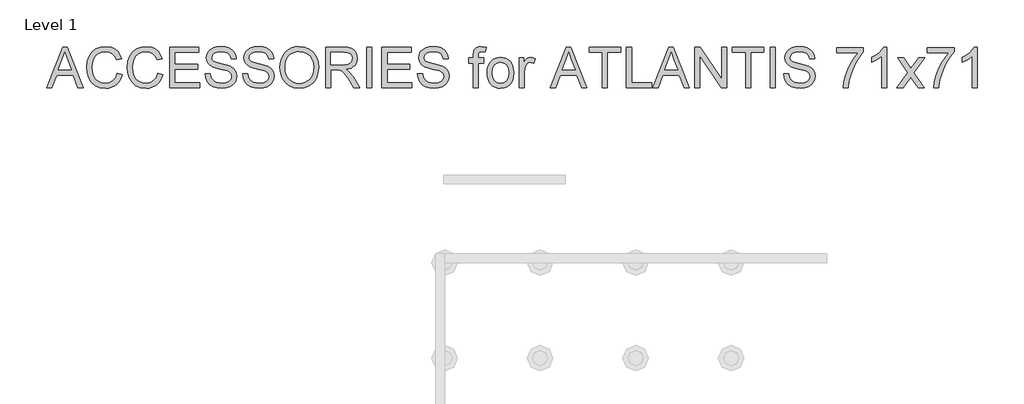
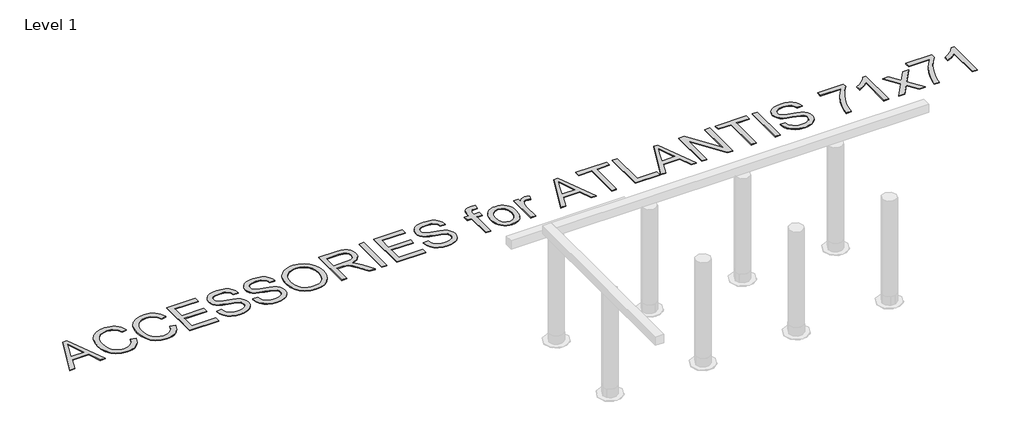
# One storey, part 6 of 6: 1 proxy.
"""IFC4 building model written with IfcOpenShell, lengths in millimetres."""

from ifc_helpers import new_model, si_unit, origin, origin_with_axes, place, context, project, spatial, polyline, outline, extrude, element, save

model = new_model("IFC4")

# Units and contexts
model_context = context("Model", 3, world=origin())
ifc_project = project(units=[si_unit("LENGTHUNIT", "METRE", prefix="MILLI")], contexts=[model_context])

# Site, building, storey
site = spatial("IfcSite", under=ifc_project)
building = spatial("IfcBuilding", under=site)
storey = spatial("IfcBuildingStorey", under=building, Name="Level 1", Elevation=0.0)

# Proxy
placement = place(None, origin())
element("IfcBuildingElementProxy", 1, Name="300mm Arial", ObjectType="300mm Arial", at=placement, inside=storey, context=model_context, shape_type="SweptSolid", body=[
    extrude(outline(polyline([(19298.3596666, 106.1819692), (19418.657079, 407.5508997), (19450.736389, 407.5508997), (19571.0338014, 106.1819692), (19531.2289695, 106.1819692), (19496.7216384, 200.35976), (19372.5982532, 200.35976), (19338.1644984, 106.1819692), (19298.3596666, 106.1819692)]), holes=[polyline([(19386.4306162, 238.0308763), (19482.9628517, 238.0308763), (19455.8131605, 312.1223101), (19434.696734, 369.8797834), (19415.9347522, 318.5970332), (19386.4306162, 238.0308763)])]), origin_with_axes(), (0.0, 0.0, 1.0), 5.0),
    extrude(outline(polyline([(19823.1801209, 213.3092062), (19860.8512372, 203.5971215), (19853.3970283, 180.1699362), (19843.4688129, 159.6996025), (19831.0665911, 142.1861202), (19816.190363, 127.6294895), (19799.1758207, 116.1860602), (19780.3586566, 108.0121821), (19759.7388708, 103.1078553), (19737.3164632, 101.4730797), (19693.6212792, 106.4210925), (19658.92081, 121.265131), (19632.3229418, 145.4901604), (19612.9355606, 178.5811459), (19601.0989574, 217.4846669), (19597.153423, 259.1473028), (19601.6139922, 303.0908071), (19614.9956998, 341.0378349), (19636.59957, 371.7835727), (19665.7266269, 394.1232068), (19700.2707463, 407.7256436), (19738.1258036, 412.2597892), (19779.4297546, 406.3920714), (19797.3984908, 399.0574241), (19813.5784008, 388.7889179), (19827.7027702, 375.8578658), (19839.5048844, 360.5355807), (19856.1423476, 322.7173116), (19818.4712313, 313.7409909), (19805.4114205, 341.2125789), (19787.5691437, 360.0573341), (19764.7236718, 370.9558382), (19736.6542756, 374.5886729), (19704.2990541, 370.5603651), (19677.71958, 358.4754415), (19657.5504496, 339.6030952), (19644.4262594, 315.2125189), (19637.2249694, 287.6397633), (19634.8245393, 259.2208792), (19637.6664278, 224.4192425), (19646.192093, 194.3264953), (19660.7234318, 170.0922688), (19681.5823409, 152.8661944), (19706.5891196, 142.5746956), (19733.5640668, 139.144196), (19765.0087804, 143.8162973), (19791.2111755, 157.8326013), (19810.9940298, 181.0459552), (19823.1801209, 213.3092062)])), origin_with_axes(), (0.0, 0.0, 1.0), 5.0),
    extrude(outline(polyline([(20124.5490513, 213.3092062), (20162.2201676, 203.5971215), (20154.7659587, 180.1699362), (20144.8377434, 159.6996025), (20132.4355216, 142.1861202), (20117.5592934, 127.6294895), (20100.5447511, 116.1860602), (20081.7275871, 108.0121821), (20061.1078013, 103.1078553), (20038.6853936, 101.4730797), (19994.9902097, 106.4210925), (19960.2897405, 121.265131), (19933.6918722, 145.4901604), (19914.3044911, 178.5811459), (19902.4678879, 217.4846669), (19898.5223535, 259.1473028), (19902.9829227, 303.0908071), (19916.3646303, 341.0378349), (19937.9685004, 371.7835727), (19967.0955574, 394.1232068), (20001.6396767, 407.7256436), (20039.494734, 412.2597892), (20080.798685, 406.3920714), (20098.7674212, 399.0574241), (20114.9473312, 388.7889179), (20129.0717006, 375.8578658), (20140.8738149, 360.5355807), (20157.5112781, 322.7173116), (20119.8401618, 313.7409909), (20106.780351, 341.2125789), (20088.9380742, 360.0573341), (20066.0926023, 370.9558382), (20038.0232061, 374.5886729), (20005.6679846, 370.5603651), (19979.0885104, 358.4754415), (19958.91938, 339.6030952), (19945.7951899, 315.2125189), (19938.5938998, 287.6397633), (19936.1934698, 259.2208792), (19939.0353582, 224.4192425), (19947.5610234, 194.3264953), (19962.0923623, 170.0922688), (19982.9512714, 152.8661944), (20007.95805, 142.5746956), (20034.9329973, 139.144196), (20066.3777108, 143.8162973), (20092.5801059, 157.8326013), (20112.3629602, 181.0459552), (20124.5490513, 213.3092062)])), origin_with_axes(), (0.0, 0.0, 1.0), 5.0),
    extrude(outline(polyline([(20214.0179526, 106.1819692), (20214.0179526, 407.5508997), (20430.6268713, 407.5508997), (20430.6268713, 369.8797834), (20251.6890689, 369.8797834), (20251.6890689, 280.4108821), (20421.2090922, 280.4108821), (20421.2090922, 242.7397658), (20251.6890689, 242.7397658), (20251.6890689, 143.8530855), (20435.3357608, 143.8530855), (20435.3357608, 106.1819692), (20214.0179526, 106.1819692)])), origin_with_axes(), (0.0, 0.0, 1.0), 5.0),
    extrude(outline(polyline([(20477.7157667, 209.7775391), (20515.386883, 209.7775391), (20519.7094964, 188.8726447), (20527.5269888, 172.0696346), (20539.722277, 158.7339122), (20557.1782777, 148.2308813), (20578.5154334, 141.4158673), (20602.3541867, 139.144196), (20623.3418545, 140.8640443), (20641.7175601, 146.0235893), (20656.6075839, 154.1905696), (20667.138206, 164.9327239), (20673.401397, 177.2659677), (20675.4891273, 190.2062169), (20673.9256288, 202.8153723), (20669.2351334, 213.7138764), (20659.7069897, 223.0120938), (20643.6305465, 230.8203892), (20588.779341, 245.2045752), (20552.7728908, 254.7235218), (20529.7342808, 263.782616), (20510.9814961, 276.4561507), (20497.691759, 291.815224), (20489.7730991, 309.5287421), (20487.1335458, 329.2656111), (20490.3984985, 351.3293338), (20500.1933566, 371.9031343), (20516.2606027, 389.3407409), (20538.3427195, 401.9958815), (20564.8486173, 409.6938123), (20594.1872064, 412.2597892), (20625.9722107, 409.5742506), (20653.7840896, 401.517635), (20676.6295615, 388.255489), (20693.5153451, 369.9533598), (20704.202317, 347.7516814), (20708.4513541, 322.790888), (20670.7802378, 322.790888), (20663.8640563, 345.2684779), (20649.443082, 361.4920739), (20626.9103098, 371.3145231), (20595.6587343, 374.5886729), (20563.6713949, 371.3513113), (20541.7272339, 361.6392267), (20529.035305, 347.3470112), (20524.8046621, 330.3692571), (20527.8029003, 315.8931006), (20536.7976151, 304.2496354), (20558.0611944, 293.838575), (20598.3074847, 283.2067853), (20639.841362, 273.1084245), (20664.9677022, 264.2976508), (20686.4428137, 250.6308346), (20701.424808, 233.7634452), (20710.2263847, 213.8794233), (20713.1602436, 191.1627101), (20709.7849263, 167.9401592), (20699.6589744, 146.0971657), (20683.1962551, 127.2983957), (20660.8106357, 113.2085153), (20633.8908707, 104.4069386), (20603.8257146, 101.4730797), (20566.9179535, 104.6368648), (20536.5400977, 114.1282203), (20512.3426595, 129.9839343), (20493.9761509, 152.240795), (20482.1855329, 179.3536981), (20477.7157667, 209.7775391)])), origin_with_axes(), (0.0, 0.0, 1.0), 5.0),
    extrude(outline(polyline([(20755.5402495, 209.7775391), (20793.2113658, 209.7775391), (20797.5339792, 188.8726447), (20805.3514716, 172.0696346), (20817.5467597, 158.7339122), (20835.0027604, 148.2308813), (20856.3399161, 141.4158673), (20880.1786694, 139.144196), (20901.1663372, 140.8640443), (20919.5420429, 146.0235893), (20934.4320667, 154.1905696), (20944.9626888, 164.9327239), (20951.2258797, 177.2659677), (20953.3136101, 190.2062169), (20951.7501116, 202.8153723), (20947.0596161, 213.7138764), (20937.5314725, 223.0120938), (20921.4550293, 230.8203892), (20866.6038238, 245.2045752), (20830.5973735, 254.7235218), (20807.5587636, 263.782616), (20788.8059789, 276.4561507), (20775.5162418, 291.815224), (20767.5975818, 309.5287421), (20764.9580285, 329.2656111), (20768.2229812, 351.3293338), (20778.0178394, 371.9031343), (20794.0850855, 389.3407409), (20816.1672023, 401.9958815), (20842.6731, 409.6938123), (20872.0116891, 412.2597892), (20903.7966935, 409.5742506), (20931.6085723, 401.517635), (20954.4540442, 388.255489), (20971.3398278, 369.9533598), (20982.0267998, 347.7516814), (20986.2758368, 322.790888), (20948.6047205, 322.790888), (20941.688539, 345.2684779), (20927.2675648, 361.4920739), (20904.7347926, 371.3145231), (20873.4832171, 374.5886729), (20841.4958776, 371.3513113), (20819.5517166, 361.6392267), (20806.8597878, 347.3470112), (20802.6291448, 330.3692571), (20805.6273831, 315.8931006), (20814.6220979, 304.2496354), (20835.8856772, 293.838575), (20876.1319675, 283.2067853), (20917.6658447, 273.1084245), (20942.792185, 264.2976508), (20964.2672965, 250.6308346), (20979.2492907, 233.7634452), (20988.0508675, 213.8794233), (20990.9847264, 191.1627101), (20987.6094091, 167.9401592), (20977.4834571, 146.0971657), (20961.0207379, 127.2983957), (20938.6351185, 113.2085153), (20911.7153535, 104.4069386), (20881.6501974, 101.4730797), (20844.7424362, 104.6368648), (20814.3645805, 114.1282203), (20790.1671422, 129.9839343), (20771.8006336, 152.240795), (20760.0100157, 179.3536981), (20755.5402495, 209.7775391)])), origin_with_axes(), (0.0, 0.0, 1.0), 5.0),
    extrude(outline(polyline([(21033.3647322, 252.8933089), (21035.8755268, 288.2421701), (21043.4079107, 319.5351323), (21055.9618838, 346.7721955), (21073.5374461, 369.9533598), (21095.0815354, 388.4624226), (21119.5410896, 401.6831818), (21146.9161085, 409.6156374), (21177.2065923, 412.2597892), (21216.7355127, 407.2933823), (21252.1809429, 392.3941615), (21281.6115026, 368.6105905), (21303.0958111, 336.991133), (21316.2291983, 299.0624993), (21320.606994, 256.3513997), (21315.9992721, 213.0700829), (21302.1761061, 174.6080203), (21279.9008513, 142.9333805), (21249.9368628, 120.0143322), (21214.7949352, 106.1083928), (21176.9858631, 101.4730797), (21136.8499375, 106.5958365), (21101.2021721, 121.9641068), (21071.8451889, 146.1891362), (21050.5816096, 177.8821701), (21037.6689516, 214.3484729), (21033.3647322, 252.8933089)]), holes=[polyline([(21071.0358485, 252.5254269), (21072.9189445, 227.550838), (21078.5682324, 205.3813492), (21087.9837122, 186.0169607), (21101.1653839, 169.4576724), (21117.1889441, 156.1955265), (21135.1300891, 146.7225651), (21154.9888191, 141.0387883), (21176.7651339, 139.144196), (21198.9139293, 141.0571824), (21219.007184, 146.7961415), (21237.0448981, 156.3610734), (21253.0270715, 169.751978), (21266.1121742, 186.6607542), (21275.4586762, 206.7793008), (21281.0665773, 230.1076178), (21282.9358777, 256.6457053), (21279.7353044, 289.9942081), (21270.1335843, 318.8177624), (21254.3790379, 342.3898013), (21232.7199854, 359.9837577), (21206.5911667, 370.9374441), (21177.4273215, 374.5886729), (21156.407464, 372.8297371), (21136.9051198, 367.5529297), (21118.9202887, 358.7582508), (21102.4529709, 346.4457003), (21088.7079799, 330.0220685), (21078.8901291, 308.8941456), (21072.9994187, 283.0619318), (21071.0358485, 252.5254269)])]), origin_with_axes(), (0.0, 0.0, 1.0), 5.0),
    extrude(outline(polyline([(21372.404779, 106.1819692), (21372.404779, 407.5508997), (21502.2671233, 407.5508997), (21537.1699276, 405.5183516), (21562.5629823, 399.4207076), (21581.1226289, 388.1635185), (21595.525209, 370.6523356), (21604.7682442, 348.9381008), (21607.8492559, 325.0717564), (21602.7448932, 295.3836793), (21587.4318051, 270.7723739), (21575.832026, 260.742991), (21561.4501392, 252.727762), (21524.340043, 242.7397658), (21545.7507751, 226.6265344), (21576.2849807, 187.8517722), (21626.5376612, 106.1819692), (21582.7597038, 106.1819692), (21543.5434831, 168.648332), (21515.2165695, 209.9982683), (21495.3141536, 229.5328022), (21477.3983004, 236.7065011), (21455.5461099, 238.0308763), (21410.0758953, 238.0308763), (21410.0758953, 106.1819692), (21372.404779, 106.1819692)]), holes=[polyline([(21410.0758953, 275.7019926), (21494.3944486, 275.7019926), (21518.6102809, 277.0355648), (21537.3998538, 281.0362815), (21551.5449165, 287.9708571), (21561.8272183, 298.1060061), (21568.0904092, 310.3656736), (21570.1781396, 323.6738048), (21566.195817, 342.0495104), (21554.2488492, 356.8567607), (21533.6934427, 366.6240277), (21503.885804, 369.8797834), (21410.0758953, 369.8797834), (21410.0758953, 275.7019926)])]), origin_with_axes(), (0.0, 0.0, 1.0), 5.0),
    extrude(outline(polyline([(21678.482599, 106.1819692), (21678.482599, 407.5508997), (21716.1537153, 407.5508997), (21716.1537153, 106.1819692), (21678.482599, 106.1819692)])), origin_with_axes(), (0.0, 0.0, 1.0), 5.0),
    extrude(outline(polyline([(21791.4959479, 106.1819692), (21791.4959479, 407.5508997), (22008.1048666, 407.5508997), (22008.1048666, 369.8797834), (21829.1670642, 369.8797834), (21829.1670642, 280.4108821), (21998.6870876, 280.4108821), (21998.6870876, 242.7397658), (21829.1670642, 242.7397658), (21829.1670642, 143.8530855), (22012.8137562, 143.8530855), (22012.8137562, 106.1819692), (21791.4959479, 106.1819692)])), origin_with_axes(), (0.0, 0.0, 1.0), 5.0),
    extrude(outline(polyline([(22055.193762, 209.7775391), (22092.8648783, 209.7775391), (22097.1874918, 188.8726447), (22105.0049842, 172.0696346), (22117.2002723, 158.7339122), (22134.656273, 148.2308813), (22155.9934287, 141.4158673), (22179.832182, 139.144196), (22200.8198498, 140.8640443), (22219.1955555, 146.0235893), (22234.0855792, 154.1905696), (22244.6162013, 164.9327239), (22250.8793923, 177.2659677), (22252.9671226, 190.2062169), (22251.4036241, 202.8153723), (22246.7131287, 213.7138764), (22237.184985, 223.0120938), (22221.1085418, 230.8203892), (22166.2573364, 245.2045752), (22130.2508861, 254.7235218), (22107.2122761, 263.782616), (22088.4594914, 276.4561507), (22075.1697543, 291.815224), (22067.2510944, 309.5287421), (22064.6115411, 329.2656111), (22067.8764938, 351.3293338), (22077.6713519, 371.9031343), (22093.7385981, 389.3407409), (22115.8207148, 401.9958815), (22142.3266126, 409.6938123), (22171.6652017, 412.2597892), (22203.4502061, 409.5742506), (22231.2620849, 401.517635), (22254.1075568, 388.255489), (22270.9933404, 369.9533598), (22281.6803123, 347.7516814), (22285.9293494, 322.790888), (22248.2582331, 322.790888), (22241.3420516, 345.2684779), (22226.9210774, 361.4920739), (22204.3883052, 371.3145231), (22173.1367297, 374.5886729), (22141.1493902, 371.3513113), (22119.2052292, 361.6392267), (22106.5133003, 347.3470112), (22102.2826574, 330.3692571), (22105.2808957, 315.8931006), (22114.2756104, 304.2496354), (22135.5391898, 293.838575), (22175.78548, 283.2067853), (22217.3193573, 273.1084245), (22242.4456976, 264.2976508), (22263.920809, 250.6308346), (22278.9028033, 233.7634452), (22287.70438, 213.8794233), (22290.6382389, 191.1627101), (22287.2629216, 167.9401592), (22277.1369697, 146.0971657), (22260.6742504, 127.2983957), (22238.288631, 113.2085153), (22211.368866, 104.4069386), (22181.30371, 101.4730797), (22144.3959488, 104.6368648), (22114.018093, 114.1282203), (22089.8206548, 129.9839343), (22071.4541462, 152.240795), (22059.6635283, 179.3536981), (22055.193762, 209.7775391)])), origin_with_axes(), (0.0, 0.0, 1.0), 5.0),
    extrude(outline(polyline([(22469.5760414, 106.1819692), (22469.5760414, 289.8286612), (22436.6138146, 289.8286612), (22436.6138146, 327.4997775), (22469.5760414, 327.4997775), (22469.5760414, 349.7934264), (22473.5491669, 381.2105488), (22481.127536, 393.7369308), (22492.8261835, 403.6513505), (22509.1969323, 410.1076795), (22530.7916054, 412.2597892), (22565.1517837, 408.1395109), (22559.6335538, 372.8228393), (22537.9285161, 374.5886729), (22523.6087094, 373.0251744), (22514.2001274, 368.334679), (22508.9854001, 359.3767524), (22507.2471577, 345.0109605), (22507.2471577, 327.4997775), (22549.6271635, 327.4997775), (22549.6271635, 289.8286612), (22507.2471577, 289.8286612), (22507.2471577, 106.1819692), (22469.5760414, 106.1819692)])), origin_with_axes(), (0.0, 0.0, 1.0), 5.0),
    extrude(outline(polyline([(22573.1716112, 216.8408734), (22575.2087578, 245.5034793), (22581.3201974, 270.2021568), (22591.5059302, 290.9369057), (22605.765956, 307.7077262), (22620.1225509, 318.4268878), (22635.9690678, 326.0834318), (22653.3055068, 330.6773583), (22672.1318679, 332.2086671), (22692.9149014, 330.3439652), (22711.7067736, 324.7498596), (22728.5074844, 315.4263503), (22743.317034, 302.3734373), (22755.4042568, 286.0325789), (22764.0379874, 266.8452336), (22769.2182257, 244.8114013), (22770.9449718, 219.9310821), (22767.8915513, 181.8736897), (22758.7312896, 152.9029826), (22743.7309012, 131.2071419), (22723.1571007, 114.9743489), (22698.7205391, 104.848397), (22672.1318679, 101.4730797), (22651.0453318, 103.3308838), (22632.0787157, 108.904296), (22615.2320196, 118.1933164), (22600.5052435, 131.1979449), (22588.5467794, 147.6974524), (22580.0050193, 167.4711096), (22574.8799632, 190.5189166), (22573.1716112, 216.8408734)]), holes=[polyline([(22610.8427275, 216.9144498), (22615.2021292, 182.8209859), (22628.2803341, 158.5315771), (22647.9620208, 143.9910413), (22672.1318679, 139.144196), (22696.1913504, 144.0186324), (22715.8362489, 158.6419417), (22728.9144539, 183.2532472), (22733.2738555, 218.0916722), (22728.8868627, 251.1918547), (22715.7258844, 275.1501696), (22696.0533947, 289.6907055), (22672.1318679, 294.5375508), (22647.9620208, 289.7090996), (22628.2803341, 275.223746), (22615.2021292, 250.9895196), (22610.8427275, 216.9144498)])]), origin_with_axes(), (0.0, 0.0, 1.0), 5.0),
    extrude(outline(polyline([(22813.3249777, 106.1819692), (22813.3249777, 327.4997775), (22846.2872044, 327.4997775), (22846.2872044, 294.75828), (22858.4640985, 313.7409909), (22869.6844993, 324.9246036), (22880.9416884, 330.3876512), (22893.228947, 332.2086671), (22911.9909288, 329.3023993), (22931.0472161, 320.583596), (22918.4656519, 286.8120289), (22905.2219001, 292.6061703), (22891.9781482, 294.5375508), (22880.7301562, 292.6797467), (22870.6777807, 287.1063345), (22862.5567857, 278.2403784), (22857.1029351, 266.5049427), (22852.5228043, 245.4620926), (22850.996094, 222.5062561), (22850.996094, 106.1819692), (22813.3249777, 106.1819692)])), origin_with_axes(), (0.0, 0.0, 1.0), 5.0),
    extrude(outline(polyline([(23041.9268495, 106.1819692), (23162.2242619, 407.5508997), (23194.3035719, 407.5508997), (23314.6009843, 106.1819692), (23274.7961524, 106.1819692), (23240.2888213, 200.35976), (23116.1654361, 200.35976), (23081.7316814, 106.1819692), (23041.9268495, 106.1819692)]), holes=[polyline([(23129.9977991, 238.0308763), (23226.5300347, 238.0308763), (23199.3803434, 312.1223101), (23178.2639169, 369.8797834), (23159.5019351, 318.5970332), (23129.9977991, 238.0308763)])]), origin_with_axes(), (0.0, 0.0, 1.0), 5.0),
    extrude(outline(polyline([(23430.1895072, 106.1819692), (23430.1895072, 369.8797834), (23331.3028269, 369.8797834), (23331.3028269, 407.5508997), (23566.7473038, 407.5508997), (23566.7473038, 369.8797834), (23467.8606235, 369.8797834), (23467.8606235, 106.1819692), (23430.1895072, 106.1819692)])), origin_with_axes(), (0.0, 0.0, 1.0), 5.0),
    extrude(outline(polyline([(23609.1273096, 106.1819692), (23609.1273096, 407.5508997), (23646.7984259, 407.5508997), (23646.7984259, 143.8530855), (23797.4828912, 143.8530855), (23797.4828912, 106.1819692), (23609.1273096, 106.1819692)])), origin_with_axes(), (0.0, 0.0, 1.0), 5.0),
    extrude(outline(polyline([(23804.7669547, 106.1819692), (23925.0643671, 407.5508997), (23957.1436771, 407.5508997), (24077.4410895, 106.1819692), (24037.6362576, 106.1819692), (24003.1289265, 200.35976), (23879.0055413, 200.35976), (23844.5717866, 106.1819692), (23804.7669547, 106.1819692)]), holes=[polyline([(23892.8379043, 238.0308763), (23989.3701399, 238.0308763), (23962.2204486, 312.1223101), (23941.1040221, 369.8797834), (23922.3420403, 318.5970332), (23892.8379043, 238.0308763)])]), origin_with_axes(), (0.0, 0.0, 1.0), 5.0),
    extrude(outline(polyline([(24117.6873798, 106.1819692), (24117.6873798, 407.5508997), (24158.0072464, 407.5508997), (24315.4607404, 168.7954848), (24315.4607404, 407.5508997), (24353.1318567, 407.5508997), (24353.1318567, 106.1819692), (24312.81199, 106.1819692), (24155.3584961, 345.0109605), (24155.3584961, 106.1819692), (24117.6873798, 106.1819692)])), origin_with_axes(), (0.0, 0.0, 1.0), 5.0),
    extrude(outline(polyline([(24494.3985428, 106.1819692), (24494.3985428, 369.8797834), (24395.5118625, 369.8797834), (24395.5118625, 407.5508997), (24630.9563394, 407.5508997), (24630.9563394, 369.8797834), (24532.0696591, 369.8797834), (24532.0696591, 106.1819692), (24494.3985428, 106.1819692)])), origin_with_axes(), (0.0, 0.0, 1.0), 5.0),
    extrude(outline(polyline([(24678.0452348, 106.1819692), (24678.0452348, 407.5508997), (24715.7163511, 407.5508997), (24715.7163511, 106.1819692), (24678.0452348, 106.1819692)])), origin_with_axes(), (0.0, 0.0, 1.0), 5.0),
    extrude(outline(polyline([(24776.9319151, 209.7775391), (24814.6030314, 209.7775391), (24818.9256449, 188.8726447), (24826.7431373, 172.0696346), (24838.9384254, 158.7339122), (24856.3944261, 148.2308813), (24877.7315818, 141.4158673), (24901.5703351, 139.144196), (24922.5580029, 140.8640443), (24940.9337086, 146.0235893), (24955.8237323, 154.1905696), (24966.3543544, 164.9327239), (24972.6175454, 177.2659677), (24974.7052757, 190.2062169), (24973.1417773, 202.8153723), (24968.4512818, 213.7138764), (24958.9231381, 223.0120938), (24942.846695, 230.8203892), (24887.9954895, 245.2045752), (24851.9890392, 254.7235218), (24828.9504292, 263.782616), (24810.1976445, 276.4561507), (24796.9079075, 291.815224), (24788.9892475, 309.5287421), (24786.3496942, 329.2656111), (24789.6146469, 351.3293338), (24799.409505, 371.9031343), (24815.4767512, 389.3407409), (24837.5588679, 401.9958815), (24864.0647657, 409.6938123), (24893.4033548, 412.2597892), (24925.1883592, 409.5742506), (24953.000238, 401.517635), (24975.8457099, 388.255489), (24992.7314935, 369.9533598), (25003.4184655, 347.7516814), (25007.6675025, 322.790888), (24969.9963862, 322.790888), (24963.0802047, 345.2684779), (24948.6592305, 361.4920739), (24926.1264583, 371.3145231), (24894.8748828, 374.5886729), (24862.8875433, 371.3513113), (24840.9433823, 361.6392267), (24828.2514535, 347.3470112), (24824.0208105, 330.3692571), (24827.0190488, 315.8931006), (24836.0137636, 304.2496354), (24857.2773429, 293.838575), (24897.5236331, 283.2067853), (24939.0575104, 273.1084245), (24964.1838507, 264.2976508), (24985.6589621, 250.6308346), (25000.6409564, 233.7634452), (25009.4425331, 213.8794233), (25012.376392, 191.1627101), (25009.0010747, 167.9401592), (24998.8751228, 146.0971657), (24982.4124035, 127.2983957), (24960.0267841, 113.2085153), (24933.1070191, 104.4069386), (24903.0418631, 101.4730797), (24866.1341019, 104.6368648), (24835.7562462, 114.1282203), (24811.5588079, 129.9839343), (24793.1922993, 152.240795), (24781.4016814, 179.3536981), (24776.9319151, 209.7775391)])), origin_with_axes(), (0.0, 0.0, 1.0), 5.0),
    extrude(outline(polyline([(25172.4786363, 365.1708938), (25172.4786363, 402.8420101), (25370.2519969, 402.8420101), (25370.2519969, 372.3813809), (25342.0630391, 336.7060245), (25314.1499927, 291.3369774), (25289.5294902, 240.4129122), (25271.2181638, 188.0725014), (25262.2418432, 148.911463), (25257.238648, 106.1819692), (25219.5675317, 106.1819692), (25223.6418248, 145.0119138), (25234.5403289, 191.1627101), (25251.9687384, 240.0818184), (25275.6327478, 287.2166991), (25303.2606856, 329.8266311), (25332.5808806, 365.1708938), (25172.4786363, 365.1708938)])), origin_with_axes(), (0.0, 0.0, 1.0), 5.0),
    extrude(outline(polyline([(25544.4809099, 106.1819692), (25506.8097936, 106.1819692), (25506.8097936, 341.0378349), (25471.12524, 315.6171891), (25431.4675609, 296.5976899), (25431.4675609, 332.2086671), (25461.0544704, 348.3035043), (25486.6866484, 367.4517622), (25506.892567, 387.8140306), (25520.2006982, 407.5508997), (25544.4809099, 407.5508997), (25544.4809099, 106.1819692)])), origin_with_axes(), (0.0, 0.0, 1.0), 5.0),
    extrude(outline(polyline([(25619.8231425, 106.1819692), (25700.315723, 217.4294846), (25624.532032, 327.4997775), (25669.8550938, 327.4997775), (25706.4225641, 274.5247702), (25723.4922887, 249.5087945), (25738.2811449, 269.9630335), (25779.9253868, 327.4997775), (25825.2484486, 327.4997775), (25745.6387848, 217.4294846), (25822.3053926, 106.1819692), (25776.9823308, 106.1819692), (25730.8499286, 173.0629159), (25722.3886427, 185.2765982), (25665.1462043, 106.1819692), (25619.8231425, 106.1819692)])), origin_with_axes(), (0.0, 0.0, 1.0), 5.0),
    extrude(outline(polyline([(25845.8498403, 365.1708938), (25845.8498403, 402.8420101), (26043.6232009, 402.8420101), (26043.6232009, 372.3813809), (26015.434243, 336.7060245), (25987.5211967, 291.3369774), (25962.9006941, 240.4129122), (25944.5893678, 188.0725014), (25935.6130471, 148.911463), (25930.609852, 106.1819692), (25892.9387357, 106.1819692), (25897.0130288, 145.0119138), (25907.9115329, 191.1627101), (25925.3399424, 240.0818184), (25949.0039518, 287.2166991), (25976.6318896, 329.8266311), (26005.9520846, 365.1708938), (25845.8498403, 365.1708938)])), origin_with_axes(), (0.0, 0.0, 1.0), 5.0),
    extrude(outline(polyline([(26217.8521138, 106.1819692), (26180.1809975, 106.1819692), (26180.1809975, 341.0378349), (26144.496444, 315.6171891), (26104.8387649, 296.5976899), (26104.8387649, 332.2086671), (26134.4256744, 348.3035043), (26160.0578524, 367.4517622), (26180.263771, 387.8140306), (26193.5719022, 407.5508997), (26217.8521138, 407.5508997), (26217.8521138, 106.1819692)])), origin_with_axes(), (0.0, 0.0, 1.0), 5.0),
])

save(model, "model.ifc")
